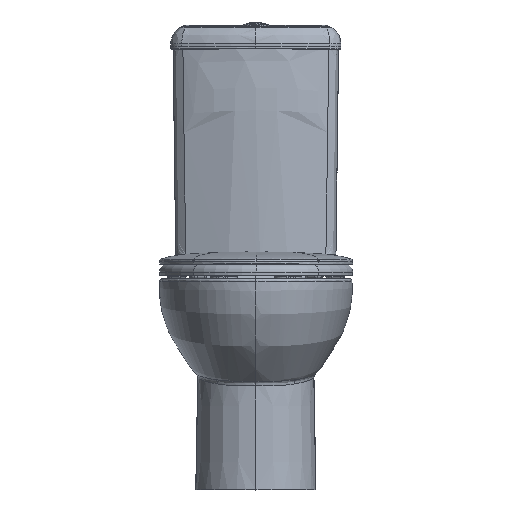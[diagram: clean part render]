
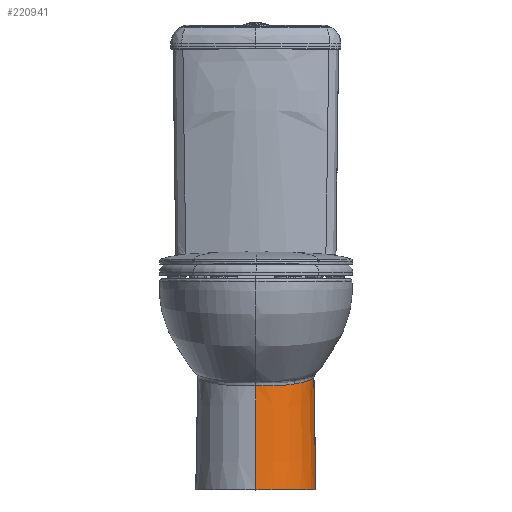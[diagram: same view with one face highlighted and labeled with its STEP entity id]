
A CAD part, top view. The second image highlights one B-rep face of the part: STEP entity #220941.
In plain terms, the highlighted conical face has half-angle 1 degrees and reference radius 112.534 mm.
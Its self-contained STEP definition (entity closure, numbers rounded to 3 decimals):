
#260 = CARTESIAN_POINT ( 'NONE',  ( 81.99, -198.357, 188.618 ) ) ;
#2793 = FACE_OUTER_BOUND ( 'NONE', #176003, .T. ) ;
#11466 = CARTESIAN_POINT ( 'NONE',  ( 46.219, -203.149, 215.515 ) ) ;
#19250 = CARTESIAN_POINT ( 'NONE',  ( 50.683, -202.864, 213.34 ) ) ;
#21822 = CARTESIAN_POINT ( 'NONE',  ( 61.958, -201.737, 206.51 ) ) ;
#31804 = CARTESIAN_POINT ( 'NONE',  ( 95.116, -195.021, 169.861 ) ) ;
#36385 = VERTEX_POINT ( 'NONE', #137436 ) ;
#36964 = CARTESIAN_POINT ( 'NONE',  ( 90.249, -196.393, 177.884 ) ) ;
#39535 = CARTESIAN_POINT ( 'NONE',  ( 106.309, -190.735, 140.573 ) ) ;
#45847 = DIRECTION ( 'NONE',  ( 0.017, -1., 0.002 ) ) ;
#55907 = CARTESIAN_POINT ( 'NONE',  ( 71.118, -200.405, 199.37 ) ) ;
#58510 = CARTESIAN_POINT ( 'NONE',  ( 34.608, -203.567, 220.15 ) ) ;
#61122 = CARTESIAN_POINT ( 'NONE',  ( 59.217, -202.063, 208.345 ) ) ;
#69240 = CARTESIAN_POINT ( 'NONE',  ( 108.396, -189.171, 126.979 ) ) ;
#73666 = CARTESIAN_POINT ( 'NONE',  ( 107.27, -190.127, 135.517 ) ) ;
#76262 = CARTESIAN_POINT ( 'NONE',  ( 98.662, -193.908, 163.031 ) ) ;
#82048 = ORIENTED_EDGE ( 'NONE', *, *, #210477, .F. ) ;
#97193 = DIRECTION ( 'NONE',  ( 0., -1., 0.017 ) ) ;
#99439 = VECTOR ( 'NONE', #97193, 1000. ) ;
#100398 = CARTESIAN_POINT ( 'NONE',  ( 32.235, -203.606, 220.925 ) ) ;
#102986 = CARTESIAN_POINT ( 'NONE',  ( 6.21, -203.913, 225.622 ) ) ;
#107833 = CARTESIAN_POINT ( 'NONE',  ( 74.923, -199.759, 195.983 ) ) ;
#110409 = CARTESIAN_POINT ( 'NONE',  ( 88.308, -196.89, 180.665 ) ) ;
#118113 = DIRECTION ( 'NONE',  ( 0., -1., 0. ) ) ;
#119620 = CARTESIAN_POINT ( 'NONE',  ( 112.026, -398.028, 127.325 ) ) ;
#120454 = DIRECTION ( 'NONE',  ( 0., 0., 1. ) ) ;
#127008 = LINE ( 'NONE', #174021, #247933 ) ;
#131916 = CARTESIAN_POINT ( 'NONE',  ( 72.353, -200.196, 198.271 ) ) ;
#137436 = CARTESIAN_POINT ( 'NONE',  ( 72.353, -200.196, 198.271 ) ) ;
#152288 = CARTESIAN_POINT ( 'NONE',  ( 96.34, -194.647, 167.599 ) ) ;
#162327 = CARTESIAN_POINT ( 'NONE',  ( 0., -398.028, 116.64 ) ) ;
#162559 = CARTESIAN_POINT ( 'NONE',  ( 0., -398.028, 116.64 ) ) ;
#169542 = CARTESIAN_POINT ( 'NONE',  ( 0., -398.028, 229.174 ) ) ;
#171231 = CARTESIAN_POINT ( 'NONE',  ( 69.85, -200.61, 200.449 ) ) ;
#172606 = DIRECTION ( 'NONE',  ( 0., 1., 0. ) ) ;
#173805 = CARTESIAN_POINT ( 'NONE',  ( 16.124, -203.836, 224.637 ) ) ;
#174021 = CARTESIAN_POINT ( 'NONE',  ( 112.026, -398.028, 127.325 ) ) ;
#176003 = EDGE_LOOP ( 'NONE', ( #412387, #288641, #468371, #82048, #324248 ) ) ;
#181588 = CARTESIAN_POINT ( 'NONE',  ( 67.265, -201.005, 202.546 ) ) ;
#191545 = EDGE_CURVE ( 'NONE', #36385, #400410, #254326, .T. ) ;
#193114 = CIRCLE ( 'NONE', #326934, 112.534 ) ;
#196699 = CARTESIAN_POINT ( 'NONE',  ( 100.052, -193.427, 159.93 ) ) ;
#210477 = EDGE_CURVE ( 'NONE', #400410, #425320, #127008, .T. ) ;
#218283 = CARTESIAN_POINT ( 'NONE',  ( 41.657, -203.374, 217.527 ) ) ;
#220875 = CARTESIAN_POINT ( 'NONE',  ( 35.397, -203.554, 219.883 ) ) ;
#220941 = ADVANCED_FACE ( 'NONE', ( #2793 ), #261409, .T. ) ;
#228315 = CARTESIAN_POINT ( 'NONE',  ( 72.353, -200.196, 198.271 ) ) ;
#233419 = CARTESIAN_POINT ( 'NONE',  ( 108.236, -189.353, 128.695 ) ) ;
#238578 = CARTESIAN_POINT ( 'NONE',  ( 105.514, -191.158, 143.889 ) ) ;
#245792 = VERTEX_POINT ( 'NONE', #169542 ) ;
#247933 = VECTOR ( 'NONE', #45847, 1000. ) ;
#254326 =( BOUNDED_CURVE ( )  B_SPLINE_CURVE ( 3, ( #228315, #107833, #466680, #260, #275300, #110409, #36964, #390638, #359069, #31804, #516279, #152288, #277897, #76262, #196699, #312043, #432510, #238578, #39535, #73666, #267599, #398357, #233419, #393219 ),
 .UNSPECIFIED., .F., .T. ) 
 B_SPLINE_CURVE_WITH_KNOTS ( ( 4, 2, 2, 2, 2, 2, 2, 2, 2, 2, 2, 4 ),
 ( 0., 0.125, 0.25, 0.375, 0.437, 0.469, 0.5, 0.625, 0.75, 0.875, 0.938, 1. ),
 .UNSPECIFIED. ) 
 CURVE ( )  GEOMETRIC_REPRESENTATION_ITEM ( )  RATIONAL_B_SPLINE_CURVE ( ( 1., 1., 1., 1., 1., 1., 1., 1., 1., 1., 1., 1., 1., 1., 1., 1., 1., 1., 1., 1., 1., 1., 1., 1. ) ) 
 REPRESENTATION_ITEM ( '' )  );
#254966 = CARTESIAN_POINT ( 'NONE',  ( 7.873, -203.905, 225.514 ) ) ;
#260169 = CARTESIAN_POINT ( 'NONE',  ( 38.149, -203.49, 218.894 ) ) ;
#261409 = CONICAL_SURFACE ( 'NONE', #395229, 112.534, 0.017 ) ;
#267599 = CARTESIAN_POINT ( 'NONE',  ( 107.552, -189.928, 133.815 ) ) ;
#275300 = CARTESIAN_POINT ( 'NONE',  ( 84.178, -197.872, 186.032 ) ) ;
#277897 = CARTESIAN_POINT ( 'NONE',  ( 96.735, -194.524, 166.84 ) ) ;
#283311 = VERTEX_POINT ( 'NONE', #394845 ) ;
#288641 = ORIENTED_EDGE ( 'NONE', *, *, #512482, .T. ) ;
#299443 = CARTESIAN_POINT ( 'NONE',  ( 3.027, -203.924, 225.754 ) ) ;
#299801 = EDGE_CURVE ( 'NONE', #283311, #36385, #497289, .T. ) ;
#312043 = CARTESIAN_POINT ( 'NONE',  ( 102.534, -192.49, 153.62 ) ) ;
#324248 = ORIENTED_EDGE ( 'NONE', *, *, #191545, .F. ) ;
#326934 = AXIS2_PLACEMENT_3D ( 'NONE', #162327, #172606, #120454 ) ;
#330988 = CARTESIAN_POINT ( 'NONE',  ( 0., -203.927, 225.786 ) ) ;
#333576 = CARTESIAN_POINT ( 'NONE',  ( 36.972, -203.521, 219.327 ) ) ;
#338755 = CARTESIAN_POINT ( 'NONE',  ( 1.509, -203.927, 225.786 ) ) ;
#359069 = CARTESIAN_POINT ( 'NONE',  ( 93.849, -195.395, 172.098 ) ) ;
#369706 = CARTESIAN_POINT ( 'NONE',  ( 0., -398.028, 229.174 ) ) ;
#370309 = CARTESIAN_POINT ( 'NONE',  ( 25.853, -203.705, 222.727 ) ) ;
#372867 = CARTESIAN_POINT ( 'NONE',  ( 30.645, -203.631, 221.403 ) ) ;
#378061 = CARTESIAN_POINT ( 'NONE',  ( 44.712, -203.232, 216.208 ) ) ;
#380638 = CARTESIAN_POINT ( 'NONE',  ( 36.578, -203.53, 219.467 ) ) ;
#390638 = CARTESIAN_POINT ( 'NONE',  ( 92.973, -195.645, 173.563 ) ) ;
#393219 = CARTESIAN_POINT ( 'NONE',  ( 108.396, -189.171, 126.979 ) ) ;
#394845 = CARTESIAN_POINT ( 'NONE',  ( 0., -203.927, 225.786 ) ) ;
#395229 = AXIS2_PLACEMENT_3D ( 'NONE', #162559, #118113, #435071 ) ;
#398357 = CARTESIAN_POINT ( 'NONE',  ( 108.035, -189.541, 130.406 ) ) ;
#400410 = VERTEX_POINT ( 'NONE', #69240 ) ;
#407884 = EDGE_CURVE ( 'NONE', #245792, #425320, #193114, .T. ) ;
#412387 = ORIENTED_EDGE ( 'NONE', *, *, #299801, .F. ) ;
#414744 = CARTESIAN_POINT ( 'NONE',  ( 65.953, -201.195, 203.561 ) ) ;
#417336 = CARTESIAN_POINT ( 'NONE',  ( 22.63, -203.753, 223.462 ) ) ;
#419959 = CARTESIAN_POINT ( 'NONE',  ( 53.579, -202.627, 211.761 ) ) ;
#422529 = CARTESIAN_POINT ( 'NONE',  ( 40.108, -203.433, 218.154 ) ) ;
#425320 = VERTEX_POINT ( 'NONE', #119620 ) ;
#432510 = CARTESIAN_POINT ( 'NONE',  ( 103.627, -192.035, 150.412 ) ) ;
#435071 = DIRECTION ( 'NONE',  ( 0., 0., 1. ) ) ;
#450870 = LINE ( 'NONE', #369706, #99439 ) ;
#459243 = CARTESIAN_POINT ( 'NONE',  ( 12.842, -203.87, 225.078 ) ) ;
#466680 = CARTESIAN_POINT ( 'NONE',  ( 77.362, -199.301, 193.593 ) ) ;
#468371 = ORIENTED_EDGE ( 'NONE', *, *, #407884, .T. ) ;
#495977 = CARTESIAN_POINT ( 'NONE',  ( 37.757, -203.501, 219.04 ) ) ;
#497289 = B_SPLINE_CURVE_WITH_KNOTS ( 'NONE', 3,
 ( #330988, #338755, #299443, #102986, #254966, #459243, #173805, #417336, #370309, #372867, #100398, #58510, #220875, #380638, #333576, #495977, #260169, #422529, #218283, #378061, #11466, #19250, #419959, #61122, #21822, #414744, #181588, #171231, #55907, #131916 ),
 .UNSPECIFIED., .F., .F.,
 ( 4, 2, 2, 2, 2, 2, 2, 2, 2, 2, 2, 2, 2, 2, 4 ),
 ( 0., 0.057, 0.12, 0.245, 0.371, 0.434, 0.466, 0.481, 0.497, 0.56, 0.623, 0.748, 0.874, 0.937, 1. ),
 .UNSPECIFIED. ) ;
#512482 = EDGE_CURVE ( 'NONE', #283311, #245792, #450870, .T. ) ;
#516279 = CARTESIAN_POINT ( 'NONE',  ( 95.531, -194.896, 169.109 ) ) ;
